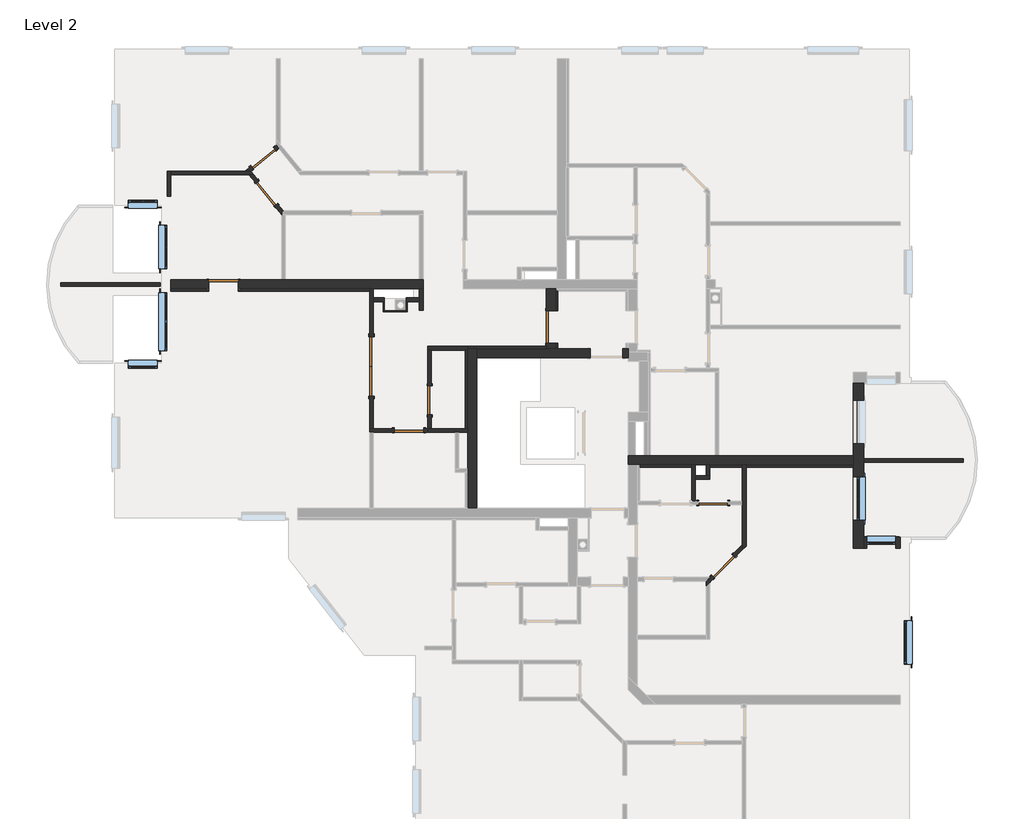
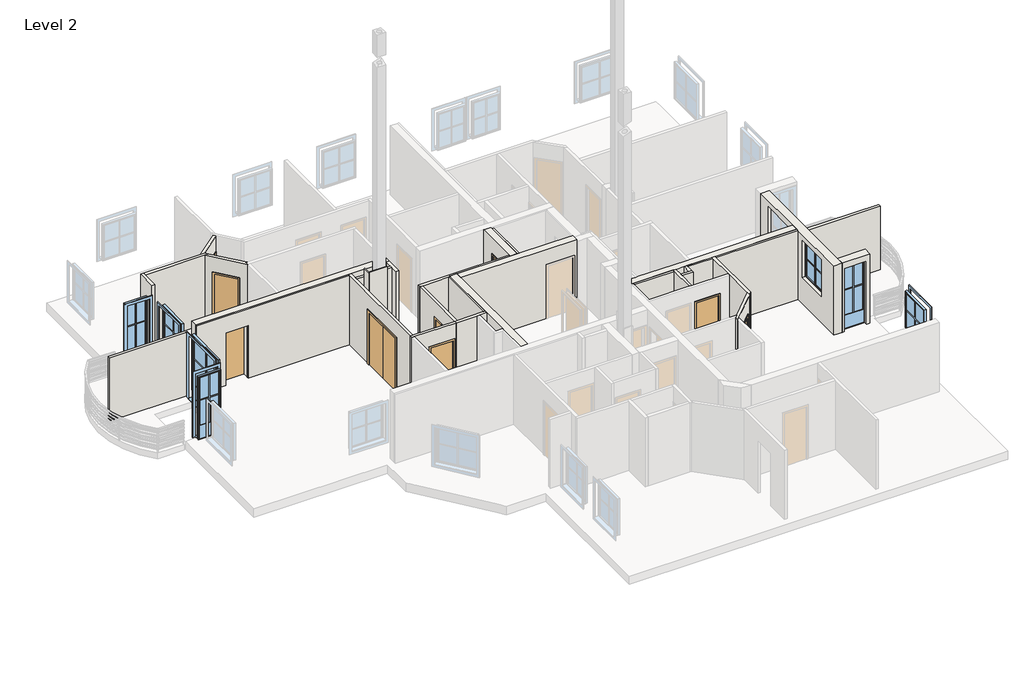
# One storey, part 2 of 4: 36 walls, 9 doors, 7 windows.
"""IFC4 building model written with IfcOpenShell, lengths in millimetres."""

from ifc_helpers import new_model, si_unit, frame, origin, place, context, project, spatial, polyline, outline, extrude, faceted_brep, transform, mapped, element, save
from components import m_double_flush_1640_x_2000mm_58610322, standard_door_sd_800x2000_6a16926d, standard_door_sd_800x2000_80f4ff25, standard_door_sd_800x2000_0203fe2f, standard_door_sd_900x2000_4224ae2a, standard_window_with_mullions_80486b60, window_1_87741a49, window_2_4fa60929, window_2_775565f5

model = new_model("IFC4")

# Units and contexts
model_context = context("Model", 3, world=origin())
ifc_project = project(units=[si_unit("LENGTHUNIT", "METRE", prefix="MILLI")], contexts=[model_context])

# Site, building, storey
site = spatial("IfcSite", under=ifc_project)
building = spatial("IfcBuilding", under=site)
storey = spatial("IfcBuildingStorey", under=building, Name="Level 2", Elevation=5900.0)

# Doors
placement = place(None, origin())
m_double_flush_1640_x_2000mm_shape = m_double_flush_1640_x_2000mm_58610322(model_context)
element("IfcDoor", 1, ObjectType="M_Double-Flush : 1640 x 2000mm", at=placement, inside=storey, context=model_context, shape_type="MappedRepresentation", body=[
    mapped(m_double_flush_1640_x_2000mm_shape, transform((-5507.1962165, 2081.2918521, 5900.0), x_axis=(0.0, 1.0, 0.0), y_axis=(-1.0, 0.0, 0.0), z_axis=(0.0, 0.0, 1.0))),
])
standard_door_sd_800x2000_shape = standard_door_sd_800x2000_6a16926d(model_context)
element("IfcDoor", 2, ObjectType="Standard Door : SD 800x2000", at=placement, inside=storey, context=model_context, shape_type="MappedRepresentation", body=[
    mapped(standard_door_sd_800x2000_shape, transform((4190.1336236, -3425.7517839, 5900.0), x_axis=(0.7071067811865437, 0.7071067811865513, 0.0), y_axis=(-0.7071067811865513, 0.7071067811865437, 0.0), z_axis=(0.0, 0.0, 1.0))),
])
element("IfcDoor", 3, ObjectType="Standard Door : SD 800x2000", at=placement, inside=storey, context=model_context, shape_type="MappedRepresentation", body=[
    mapped(standard_door_sd_800x2000_shape, transform((3909.4426418, -1682.3709459, 5900.0), x_axis=(1.0, 0.0, 0.0), y_axis=(0.0, 1.0, 0.0), z_axis=(0.0, 0.0, 1.0))),
])
element("IfcDoor", 4, ObjectType="Standard Door : SD 800x2000", at=placement, inside=storey, context=model_context, shape_type="MappedRepresentation", body=[
    mapped(standard_door_sd_800x2000_shape, transform((-8487.7895253, 7819.2928874, 5900.0), x_axis=(0.774832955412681, 0.6321660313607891, 0.0), y_axis=(-0.6321660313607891, 0.774832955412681, 0.0), z_axis=(0.0, 0.0, 1.0))),
])
element("IfcDoor", 5, ObjectType="Standard Door : SD 800x2000", at=placement, inside=storey, context=model_context, shape_type="MappedRepresentation", body=[
    mapped(standard_door_sd_800x2000_shape, transform((-8399.7238913, 6849.2373561, 5900.0), x_axis=(0.632166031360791, -0.7748329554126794, 0.0), y_axis=(0.7748329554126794, 0.632166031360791, 0.0), z_axis=(0.0, 0.0, 1.0))),
])
standard_door_sd_800x2000_2_shape = standard_door_sd_800x2000_80f4ff25(model_context)
element("IfcDoor", 6, ObjectType="Standard Door : SD 800x2000", at=placement, inside=storey, context=model_context, shape_type="MappedRepresentation", body=[
    mapped(standard_door_sd_800x2000_2_shape, transform((-3907.1962165, 1147.6290512, 5900.0), x_axis=(0.0, 0.9999999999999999, 0.0), y_axis=(-0.9999999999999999, 0.0, 0.0), z_axis=(0.0, 0.0, 1.0))),
])
element("IfcDoor", 7, ObjectType="Standard Door : SD 800x2000", at=placement, inside=storey, context=model_context, shape_type="MappedRepresentation", body=[
    mapped(standard_door_sd_800x2000_2_shape, transform((-4475.9642734, 317.6290541, 5900.0), x_axis=(-0.9999999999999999, 0.0, 0.0), y_axis=(0.0, -0.9999999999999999, 0.0), z_axis=(0.0, 0.0, 1.0))),
])
standard_door_sd_800x2000_3_shape = standard_door_sd_800x2000_0203fe2f(model_context)
element("IfcDoor", 8, ObjectType="Standard Door : SD 800x2000", at=placement, inside=storey, context=model_context, shape_type="MappedRepresentation", body=[
    mapped(standard_door_sd_800x2000_3_shape, transform((-9588.4360939, 4342.6290541, 5900.0), x_axis=(-1.0, 0.0, 0.0), y_axis=(0.0, -1.0, 0.0), z_axis=(0.0, 0.0, 1.0))),
])
standard_door_sd_900x2000_shape = standard_door_sd_900x2000_4224ae2a(model_context)
element("IfcDoor", 9, ObjectType="Standard Door : SD 900x2000", at=placement, inside=storey, context=model_context, shape_type="MappedRepresentation", body=[
    mapped(standard_door_sd_900x2000_shape, transform((-562.1962165, 3171.1987133, 5900.0), x_axis=(0.0, 1.0, 0.0), y_axis=(-1.0, 0.0, 0.0), z_axis=(0.0, 0.0, 1.0))),
])

# Walls
element("IfcWall", 10, ObjectType="Exterior - 100mm", at=placement, inside=storey, context=model_context, shape_type="SweptSolid", body=[
    extrude(outline(polyline([(-14076.3140436, 4392.6290541), (-11337.1962165, 4392.6290541), (-11337.1962165, 4292.6290541), (-14076.3140436, 4292.6290541), (-14076.3140436, 4392.6290541)])), frame((0.0, 0.0, 5900.0), z_axis=(0.0, 0.0, 1.0), x_axis=(1.0, 0.0, 0.0)), (0.0, 0.0, 1.0), 2400.0),
])
element("IfcWall", 11, ObjectType="Exterior - 100mm", at=placement, inside=storey, context=model_context, shape_type="SweptSolid", body=[
    extrude(outline(polyline([(10801.9216105, -557.3709459), (8062.8037835, -557.3709459), (8062.8037835, -457.3709459), (10801.9216105, -457.3709459), (10801.9216105, -557.3709459)])), frame((0.0, 0.0, 5900.0), z_axis=(0.0, 0.0, 1.0), x_axis=(1.0, 0.0, 0.0)), (0.0, 0.0, 1.0), 2400.0),
])
element("IfcWall", 12, ObjectType="Exterior - 250 + 50mm", at=placement, inside=storey, context=model_context, shape_type="Brep", body=[
    faceted_brep([(7762.8037835, -2932.3709459, 5900.0), (7762.8037835, -697.3709459, 5900.0), (7762.8037835, -632.3709459, 5900.0), (7762.8037835, -382.3709459, 5900.0), (7762.8037835, 1617.6290541, 5900.0), (8062.8037835, 1617.6290541, 5900.0), (8062.8037835, -457.3709459, 5900.0), (8062.8037835, -557.3709459, 5900.0), (8062.8037835, -2632.3709459, 5900.0), (8062.8037835, -2932.3709459, 5900.0), (7762.8037835, -2932.3709459, 8530.0), (7762.8037835, -697.3709459, 8530.0), (7762.8037835, -632.3709459, 8530.0), (7762.8037835, -382.3709459, 8530.0), (7762.8037835, 1617.6290541, 8530.0), (7762.8037835, -963.5367865, 6900.0), (7762.8037835, -963.5367865, 8300.0), (7762.8037835, -2163.5367865, 8300.0), (7762.8037835, -2163.5367865, 6900.0), (7762.8037835, 1155.9947187, 6900.0), (7762.8037835, 1155.9947187, 8300.0), (7762.8037835, -44.0052813, 8300.0), (7762.8037835, -44.0052813, 6900.0), (8062.8037835, 1617.6290541, 8530.0), (8062.8037835, -2632.3709459, 8530.0), (8062.8037835, -2932.3709459, 8530.0), (8062.8037835, -963.5367865, 6900.0), (8062.8037835, -2163.5367865, 6900.0), (8062.8037835, -2163.5367865, 8300.0), (8062.8037835, -963.5367865, 8300.0), (8062.8037835, 1155.9947187, 6900.0), (8062.8037835, -44.0052813, 6900.0), (8062.8037835, -44.0052813, 8300.0), (8062.8037835, 1155.9947187, 8300.0)], [[[0, 1, 2, 3, 4, 5, 6, 7, 8, 9]], [[4, 3, 2, 1, 0, 10, 11, 12, 13, 14], [15, 16, 17, 18], [19, 20, 21, 22]], [[5, 23, 24, 25, 9, 8, 7, 6], [26, 27, 28, 29], [30, 31, 32, 33]], [[4, 14, 23, 5]], [[10, 0, 9, 25]], [[14, 13, 12, 11, 10, 25, 24, 23]], [[16, 15, 26, 29]], [[17, 16, 29, 28]], [[18, 17, 28, 27]], [[15, 18, 27, 26]], [[20, 19, 30, 33]], [[21, 20, 33, 32]], [[22, 21, 32, 31]], [[19, 22, 31, 30]]]),
])
element("IfcWall", 13, ObjectType="Exterior - 250+50mm", at=placement, inside=storey, context=model_context, shape_type="SweptSolid", body=[
    extrude(outline(polyline([(8300.0, 8932.977935), (5900.0, 8932.977935), (5900.0, 9062.8037835), (8530.0, 9062.8037835), (8530.0, 8062.8037835), (5900.0, 8062.8037835), (5900.0, 8132.977935), (8300.0, 8132.977935), (8300.0, 8932.977935)])), frame((0.0, -2932.3709459, 0.0), z_axis=(0.0, 1.0, 0.0), x_axis=(0.0, 0.0, 1.0)), (0.0, 0.0, 1.0), 300.0),
])
element("IfcWall", 14, ObjectType="Interior - 100mm", at=placement, inside=storey, context=model_context, shape_type="Brep", body=[
    faceted_brep([(-4187.1962165, 3967.6290541, 5900.0), (-4557.1962165, 3967.6290541, 5900.0), (-4557.1962165, 3967.6290541, 8530.0), (-4357.1962165, 3967.6290541, 8530.0), (-4187.1962165, 3967.6290541, 8530.0), (-4187.1962165, 3867.6290541, 5900.0), (-4187.1962165, 3867.6290541, 8530.0), (-4557.1962165, 3867.6290541, 8530.0), (-4557.1962165, 3867.6290541, 5900.0), (-4527.1962165, 3867.6290541, 5900.0)], [[[0, 1, 2, 3, 4]], [[5, 6, 7, 8, 9]], [[1, 0, 5, 9, 8]], [[2, 1, 8, 7]], [[0, 4, 6, 5]], [[4, 3, 2, 7, 6]]]),
])
element("IfcWall", 15, ObjectType="Interior - 100mm", at=placement, inside=storey, context=model_context, shape_type="Brep", body=[
    faceted_brep([(-5157.1962165, 3967.6290541, 5900.0), (-5457.1962165, 3967.6290541, 5900.0), (-5457.1962165, 3967.6290541, 8530.0), (-5157.1962165, 3967.6290541, 8530.0), (-5157.1962165, 3867.6290541, 5900.0), (-5157.1962165, 3867.6290541, 8530.0), (-5457.1962165, 3867.6290541, 8530.0), (-5457.1962165, 3867.6290541, 5900.0), (-5187.1962165, 3867.6290541, 5900.0)], [[[0, 1, 2, 3]], [[4, 5, 6, 7, 8]], [[1, 0, 4, 8, 7]], [[0, 3, 5, 4]], [[2, 1, 7, 6]], [[3, 2, 6, 5]]]),
])
element("IfcWall", 16, ObjectType="Interior - 100mm", at=placement, inside=storey, context=model_context, shape_type="Brep", body=[
    faceted_brep([(-5457.1962165, 4217.6290541, 5900.0), (-5457.1962165, 3967.6290541, 5900.0), (-5457.1962165, 3867.6290541, 5900.0), (-5457.1962165, 2901.2918521, 5900.0), (-5557.1962165, 2901.2918521, 5900.0), (-5557.1962165, 4152.6290541, 5900.0), (-5557.1962165, 4217.6290541, 5900.0), (-5457.1962165, 1261.2918521, 5900.0), (-5457.1962165, 367.6290541, 5900.0), (-5557.1962165, 367.6290541, 5900.0), (-5557.1962165, 1261.2918521, 5900.0), (-5557.1962165, 2901.2918521, 7900.0), (-5557.1962165, 1261.2918521, 7900.0), (-5557.1962165, 367.6290541, 8530.0), (-5557.1962165, 4152.6290541, 8530.0), (-5557.1962165, 4217.6290541, 8530.0), (-5457.1962165, 2901.2918521, 7900.0), (-5457.1962165, 4217.6290541, 8530.0), (-5457.1962165, 3967.6290541, 8530.0), (-5457.1962165, 3867.6290541, 8530.0), (-5457.1962165, 367.6290541, 8530.0), (-5457.1962165, 1261.2918521, 7900.0)], [[[0, 1, 2, 3, 4, 5, 6]], [[7, 8, 9, 10]], [[6, 5, 4, 11, 12, 10, 9, 13, 14, 15]], [[16, 3, 2, 1, 0, 17, 18, 19, 20, 8, 7, 21]], [[6, 15, 17, 0]], [[13, 9, 8, 20]], [[15, 14, 13, 20, 19, 18, 17]], [[11, 4, 3, 16]], [[12, 11, 16, 21]], [[10, 12, 21, 7]]]),
])
element("IfcWall", 17, ObjectType="Interior - 100mm", at=placement, inside=storey, context=model_context, shape_type="Brep", body=[
    faceted_brep([(-3957.1962165, 267.6290541, 5900.0), (-3207.1962165, 267.6290541, 5900.0), (-3107.1962165, 267.6290541, 5900.0), (-2857.1962165, 267.6290541, 5900.0), (-2857.1962165, 267.6290541, 8530.0), (-3107.1962165, 267.6290541, 8530.0), (-3207.1962165, 267.6290541, 8530.0), (-3957.1962165, 267.6290541, 8530.0), (-3957.1962165, 367.6290541, 5900.0), (-3957.1962165, 367.6290541, 8530.0), (-3857.1962165, 367.6290541, 8530.0), (-2922.1962165, 367.6290541, 8530.0), (-2857.1962165, 367.6290541, 8530.0), (-2857.1962165, 367.6290541, 5900.0), (-2922.1962165, 367.6290541, 5900.0), (-3857.1962165, 367.6290541, 5900.0)], [[[0, 1, 2, 3, 4, 5, 6, 7]], [[8, 9, 10, 11, 12, 13, 14, 15]], [[3, 2, 1, 0, 8, 15, 14, 13]], [[0, 7, 9, 8]], [[4, 3, 13, 12]], [[7, 6, 5, 4, 12, 11, 10, 9]]]),
])
element("IfcWall", 18, ObjectType="Interior - 100mm", at=placement, inside=storey, context=model_context, shape_type="Brep", body=[
    faceted_brep([(-4187.1962165, 4217.6290541, 5900.0), (-4187.1962165, 3967.6290541, 5900.0), (-4187.1962165, 3867.6290541, 5900.0), (-4187.1962165, 3632.0533539, 5900.0), (-4187.1962165, 3632.0533539, 8530.0), (-4187.1962165, 3867.6290541, 8530.0), (-4187.1962165, 3967.6290541, 8530.0), (-4187.1962165, 4217.6290541, 8530.0), (-4087.1962165, 4217.6290541, 5900.0), (-4087.1962165, 4217.6290541, 8530.0), (-4087.1962165, 3632.0533539, 8530.0), (-4087.1962165, 3632.0533539, 5900.0)], [[[0, 1, 2, 3, 4, 5, 6, 7]], [[8, 9, 10, 11]], [[3, 2, 1, 0, 8, 11]], [[4, 3, 11, 10]], [[0, 7, 9, 8]], [[7, 6, 5, 4, 10, 9]]]),
])
element("IfcWall", 19, ObjectType="Interior - 100mm", at=placement, inside=storey, context=model_context, shape_type="Brep", body=[
    faceted_brep([(-2857.1962165, 2632.6290541, 5900.0), (-3957.1962165, 2632.6290541, 5900.0), (-3957.1962165, 2632.6290541, 8530.0), (-2857.1962165, 2632.6290541, 8530.0), (-2857.1962165, 2532.6290541, 5900.0), (-2857.1962165, 2532.6290541, 8530.0), (-2922.1962165, 2532.6290541, 8530.0), (-3857.1962165, 2532.6290541, 8530.0), (-3957.1962165, 2532.6290541, 8530.0), (-3957.1962165, 2532.6290541, 5900.0), (-3857.1962165, 2532.6290541, 5900.0), (-2922.1962165, 2532.6290541, 5900.0), (-2857.1962165, 2567.6290541, 5900.0), (-2857.1962165, 2567.6290541, 8530.0)], [[[0, 1, 2, 3]], [[4, 5, 6, 7, 8, 9, 10, 11]], [[1, 0, 12, 4, 11, 10, 9]], [[2, 1, 9, 8]], [[0, 3, 13, 5, 4, 12]], [[3, 2, 8, 7, 6, 5, 13]]]),
])
element("IfcWall", 20, ObjectType="Interior - 100mm", at=placement, inside=storey, context=model_context, shape_type="SweptSolid", body=[
    extrude(outline(polyline([(2532.6290541, 5900.0), (1547.6290512, 5900.0), (1547.6290512, 7900.0), (747.6290512, 7900.0), (747.6290512, 5900.0), (367.6290541, 5900.0), (367.6290541, 8530.0), (2532.6290541, 8530.0), (2532.6290541, 5900.0)])), frame((-3957.1962165, 0.0, 0.0), z_axis=(1.0, 0.0, 0.0), x_axis=(0.0, 1.0, 0.0)), (0.0, 0.0, 1.0), 100.0),
])
element("IfcWall", 21, ObjectType="Interior - 100mm", at=placement, inside=storey, context=model_context, shape_type="Brep", body=[
    faceted_brep([(4712.8037835, -632.3709459, 5900.0), (4712.8037835, -697.3709459, 5900.0), (4712.8037835, -1632.3709459, 5900.0), (4712.8037835, -1732.3709459, 5900.0), (4712.8037835, -2832.3709459, 5900.0), (4712.8037835, -2973.7923022, 5900.0), (4712.8037835, -2973.7923022, 8530.0), (4712.8037835, -2832.3709459, 8530.0), (4712.8037835, -1732.3709459, 8530.0), (4712.8037835, -1632.3709459, 8530.0), (4712.8037835, -697.3709459, 8530.0), (4712.8037835, -632.3709459, 8530.0), (4812.8037835, -632.3709459, 5900.0), (4812.8037835, -632.3709459, 8530.0), (4812.8037835, -697.3709459, 8530.0), (4812.8037835, -2873.7923022, 8530.0), (4812.8037835, -2873.7923022, 5900.0), (4812.8037835, -697.3709459, 5900.0)], [[[0, 1, 2, 3, 4, 5, 6, 7, 8, 9, 10, 11]], [[12, 13, 14, 15, 16, 17]], [[5, 4, 3, 2, 1, 0, 12, 17, 16]], [[6, 5, 16, 15]], [[0, 11, 13, 12]], [[11, 10, 9, 8, 7, 6, 15, 14, 13]]]),
])
element("IfcWall", 22, ObjectType="Interior - 100mm", at=placement, inside=storey, context=model_context, shape_type="Brep", body=[
    faceted_brep([(4712.8037835, -2973.7923022, 5900.0), (4508.3316751, -3178.2644105, 5900.0), (4437.620997, -3107.5537324, 5900.0), (4712.8037835, -2832.3709459, 5900.0), (3942.6462502, -3743.9498355, 5900.0), (3812.8037835, -3873.7923022, 5900.0), (3712.8037835, -3973.7923022, 5900.0), (3712.8037835, -3832.3709459, 5900.0), (3812.8037835, -3732.3709459, 5900.0), (3871.935572, -3673.2391573, 5900.0), (4437.620997, -3107.5537324, 7900.0), (3871.935572, -3673.2391573, 7900.0), (3712.8037835, -3832.3709459, 8530.0), (3812.8037835, -3732.3709459, 8530.0), (4712.8037835, -2832.3709459, 8530.0), (4508.3316751, -3178.2644105, 7900.0), (4712.8037835, -2973.7923022, 8530.0), (3812.8037835, -3873.7923022, 8530.0), (3712.8037835, -3973.7923022, 8530.0), (3942.6462502, -3743.9498355, 7900.0)], [[[0, 1, 2, 3]], [[4, 5, 6, 7, 8, 9]], [[3, 2, 10, 11, 9, 8, 7, 12, 13, 14]], [[15, 1, 0, 16, 17, 18, 6, 5, 4, 19]], [[3, 14, 16, 0]], [[12, 7, 6, 18]], [[14, 13, 12, 18, 17, 16]], [[10, 2, 1, 15]], [[11, 10, 15, 19]], [[9, 11, 19, 4]]]),
])
element("IfcWall", 23, ObjectType="Interior - 100mm", at=placement, inside=storey, context=model_context, shape_type="Brep", body=[
    faceted_brep([(3312.8037835, -632.3709459, 5900.0), (3312.8037835, -697.3709459, 5900.0), (3312.8037835, -1632.3709459, 5900.0), (3312.8037835, -1632.3709459, 8530.0), (3312.8037835, -697.3709459, 8530.0), (3312.8037835, -632.3709459, 8530.0), (3412.8037835, -632.3709459, 5900.0), (3412.8037835, -632.3709459, 8530.0), (3412.8037835, -932.3709459, 8530.0), (3412.8037835, -1032.3709459, 8530.0), (3412.8037835, -1632.3709459, 8530.0), (3412.8037835, -1632.3709459, 5900.0), (3412.8037835, -1032.3709459, 5900.0), (3412.8037835, -932.3709459, 5900.0)], [[[0, 1, 2, 3, 4, 5]], [[6, 7, 8, 9, 10, 11, 12, 13]], [[2, 1, 0, 6, 13, 12, 11]], [[0, 5, 7, 6]], [[3, 2, 11, 10]], [[5, 4, 3, 10, 9, 8, 7]]]),
])
element("IfcWall", 24, ObjectType="Interior - 100mm", at=placement, inside=storey, context=model_context, shape_type="Brep", body=[
    faceted_brep([(3412.8037835, -1032.3709459, 5900.0), (3812.8037835, -1032.3709459, 5900.0), (3812.8037835, -1032.3709459, 8530.0), (3412.8037835, -1032.3709459, 8530.0), (3412.8037835, -932.3709459, 5900.0), (3412.8037835, -932.3709459, 8530.0), (3712.8037835, -932.3709459, 8530.0), (3812.8037835, -932.3709459, 8530.0), (3812.8037835, -932.3709459, 5900.0), (3712.8037835, -932.3709459, 5900.0)], [[[0, 1, 2, 3]], [[4, 5, 6, 7, 8, 9]], [[1, 0, 4, 9, 8]], [[2, 1, 8, 7]], [[0, 3, 5, 4]], [[3, 2, 7, 6, 5]]]),
])
element("IfcWall", 25, ObjectType="Interior - 100mm", at=placement, inside=storey, context=model_context, shape_type="Brep", body=[
    faceted_brep([(3812.8037835, -932.3709459, 5900.0), (3812.8037835, -697.3709459, 5900.0), (3812.8037835, -632.3709459, 5900.0), (3812.8037835, -632.3709459, 8530.0), (3812.8037835, -697.3709459, 8530.0), (3812.8037835, -932.3709459, 8530.0), (3712.8037835, -932.3709459, 5900.0), (3712.8037835, -932.3709459, 8530.0), (3712.8037835, -632.3709459, 8530.0), (3712.8037835, -632.3709459, 5900.0)], [[[0, 1, 2, 3, 4, 5]], [[6, 7, 8, 9]], [[2, 1, 0, 6, 9]], [[0, 5, 7, 6]], [[3, 2, 9, 8]], [[5, 4, 3, 8, 7]]]),
])
element("IfcWall", 26, ObjectType="Interior - 100mm", at=placement, inside=storey, context=model_context, shape_type="Brep", body=[
    faceted_brep([(-5557.1962165, 367.6290541, 5900.0), (-5457.1962165, 367.6290541, 5900.0), (-4875.9642734, 367.6290541, 5900.0), (-4875.9642734, 267.6290541, 5900.0), (-5457.1962165, 267.6290541, 5900.0), (-5557.1962165, 267.6290541, 5900.0), (-4075.9642734, 367.6290541, 5900.0), (-3957.1962165, 367.6290541, 5900.0), (-3957.1962165, 267.6290541, 5900.0), (-4075.9642734, 267.6290541, 5900.0), (-4875.9642734, 267.6290541, 7900.0), (-4075.9642734, 267.6290541, 7900.0), (-3957.1962165, 267.6290541, 8530.0), (-5457.1962165, 267.6290541, 8530.0), (-5557.1962165, 267.6290541, 8530.0), (-4875.9642734, 367.6290541, 7900.0), (-5557.1962165, 367.6290541, 8530.0), (-5457.1962165, 367.6290541, 8530.0), (-3957.1962165, 367.6290541, 8530.0), (-4075.9642734, 367.6290541, 7900.0)], [[[0, 1, 2, 3, 4, 5]], [[6, 7, 8, 9]], [[5, 4, 3, 10, 11, 9, 8, 12, 13, 14]], [[15, 2, 1, 0, 16, 17, 18, 7, 6, 19]], [[5, 14, 16, 0]], [[12, 8, 7, 18]], [[14, 13, 12, 18, 17, 16]], [[10, 3, 2, 15]], [[11, 10, 15, 19]], [[9, 11, 19, 6]]]),
])
element("IfcWall", 27, ObjectType="Interior - 100mm", at=placement, inside=storey, context=model_context, shape_type="Brep", body=[
    faceted_brep([(-11037.1962165, 6767.6290541, 5900.0), (-11037.1962165, 7367.6290541, 5900.0), (-11037.1962165, 7467.6290541, 5900.0), (-11037.1962165, 7467.6290541, 8530.0), (-11037.1962165, 7367.6290541, 8530.0), (-11037.1962165, 6767.6290541, 8530.0), (-11137.1962165, 6767.6290541, 5900.0), (-11137.1962165, 6767.6290541, 8530.0), (-11137.1962165, 7467.6290541, 8530.0), (-11137.1962165, 7467.6290541, 5900.0)], [[[0, 1, 2, 3, 4, 5]], [[6, 7, 8, 9]], [[2, 1, 0, 6, 9]], [[3, 2, 9, 8]], [[0, 5, 7, 6]], [[5, 4, 3, 8, 7]]]),
])
element("IfcWall", 28, ObjectType="Interior - 100mm", at=placement, inside=storey, context=model_context, shape_type="Brep", body=[
    faceted_brep([(-11037.1962165, 7367.6290541, 5900.0), (-8887.1962165, 7367.6290541, 5900.0), (-8758.1361407, 7367.6290541, 5900.0), (-8758.1361407, 7367.6290541, 8530.0), (-8887.1962165, 7367.6290541, 8530.0), (-11037.1962165, 7367.6290541, 8530.0), (-11037.1962165, 7467.6290541, 5900.0), (-11037.1962165, 7467.6290541, 8530.0), (-8997.909828, 7467.6290541, 8530.0), (-8839.7235366, 7467.6290541, 8530.0), (-8839.7235366, 7467.6290541, 5900.0), (-8997.909828, 7467.6290541, 5900.0)], [[[0, 1, 2, 3, 4, 5]], [[6, 7, 8, 9, 10, 11]], [[2, 1, 0, 6, 11, 10]], [[3, 2, 10, 9]], [[0, 5, 7, 6]], [[5, 4, 3, 9, 8, 7]]]),
])
element("IfcWall", 29, ObjectType="Interior - 100mm", at=placement, inside=storey, context=model_context, shape_type="Brep", body=[
    faceted_brep([(-7989.734861, 6267.6290541, 5900.0), (-8185.5991266, 6507.6958724, 5900.0), (-8108.115831, 6570.9124755, 5900.0), (-7942.2621811, 6367.6290541, 5900.0), (-7989.734861, 6367.6290541, 5900.0), (-8691.3319517, 7127.5622367, 5900.0), (-8887.1962165, 7367.6290541, 5900.0), (-8758.1361407, 7367.6290541, 5900.0), (-8613.8486561, 7190.7788398, 5900.0), (-8185.5991266, 6507.6958724, 7900.0), (-7989.734861, 6267.6290541, 8530.0), (-8887.1962165, 7367.6290541, 8530.0), (-8691.3319517, 7127.5622367, 7900.0), (-8108.115831, 6570.9124755, 7900.0), (-8613.8486561, 7190.7788398, 7900.0), (-8758.1361407, 7367.6290541, 8530.0), (-7942.2621811, 6367.6290541, 8530.0), (-7989.734861, 6367.6290541, 8530.0)], [[[0, 1, 2, 3, 4]], [[5, 6, 7, 8]], [[9, 1, 0, 10, 11, 6, 5, 12]], [[3, 2, 13, 14, 8, 7, 15, 16]], [[6, 11, 15, 7]], [[10, 0, 4, 17]], [[4, 3, 16, 17]], [[11, 10, 17, 16, 15]], [[13, 2, 1, 9]], [[14, 13, 9, 12]], [[8, 14, 12, 5]]]),
])
element("IfcWall", 30, ObjectType="Interior - 100mm", at=placement, inside=storey, context=model_context, shape_type="Brep", body=[
    faceted_brep([(-8064.8905812, 8099.7950854, 5900.0), (-8146.2480415, 8033.4176522, 5900.0), (-8209.4646447, 8110.9009477, 5900.0), (-8128.1071844, 8177.278381, 5900.0), (-8766.1144059, 7527.6848271, 5900.0), (-8839.7235366, 7467.6290541, 5900.0), (-8997.909828, 7467.6290541, 5900.0), (-8829.331009, 7605.1681226, 5900.0), (-8146.2480415, 8033.4176522, 7900.0), (-8064.8905812, 8099.7950854, 8530.0), (-8839.7235366, 7467.6290541, 8530.0), (-8766.1144059, 7527.6848271, 7900.0), (-8209.4646447, 8110.9009477, 7900.0), (-8829.331009, 7605.1681226, 7900.0), (-8997.909828, 7467.6290541, 8530.0), (-8128.1071844, 8177.278381, 8530.0)], [[[0, 1, 2, 3]], [[4, 5, 6, 7]], [[8, 1, 0, 9, 10, 5, 4, 11]], [[3, 2, 12, 13, 7, 6, 14, 15]], [[9, 0, 3, 15]], [[5, 10, 14, 6]], [[10, 9, 15, 14]], [[12, 2, 1, 8]], [[13, 12, 8, 11]], [[7, 13, 11, 4]]]),
])
element("IfcWall", 31, ObjectType="Interior - 250mm", at=placement, inside=storey, context=model_context, shape_type="Brep", body=[
    faceted_brep([(-4087.1962165, 4217.6290541, 8530.0), (-4087.1962165, 4217.6290541, 5900.0), (-4087.1962165, 4467.6290541, 5900.0), (-4087.1962165, 4467.6290541, 8530.0), (-11037.1962165, 4467.6290541, 5900.0), (-9988.4360939, 4467.6290541, 5900.0), (-9988.4360939, 4217.6290541, 5900.0), (-11037.1962165, 4217.6290541, 5900.0), (-9188.4360939, 4467.6290541, 5900.0), (-7989.734861, 4467.6290541, 5900.0), (-7889.734861, 4467.6290541, 5900.0), (-4187.1962165, 4467.6290541, 5900.0), (-4187.1962165, 4217.6290541, 5900.0), (-5457.1962165, 4217.6290541, 5900.0), (-5557.1962165, 4217.6290541, 5900.0), (-9188.4360939, 4217.6290541, 5900.0), (-9988.4360939, 4217.6290541, 7900.0), (-9188.4360939, 4217.6290541, 7900.0), (-4187.1962165, 4217.6290541, 8530.0), (-4357.1962165, 4217.6290541, 8530.0), (-5457.1962165, 4217.6290541, 8530.0), (-5557.1962165, 4217.6290541, 8530.0), (-11037.1962165, 4217.6290541, 8530.0), (-9988.4360939, 4467.6290541, 7900.0), (-11037.1962165, 4467.6290541, 8530.0), (-7989.734861, 4467.6290541, 8530.0), (-7889.734861, 4467.6290541, 8530.0), (-4187.1962165, 4467.6290541, 8530.0), (-9188.4360939, 4467.6290541, 7900.0)], [[[0, 1, 2, 3]], [[4, 5, 6, 7]], [[8, 9, 10, 11, 2, 1, 12, 13, 14, 15]], [[7, 6, 16, 17, 15, 14, 13, 12, 1, 0, 18, 19, 20, 21, 22]], [[23, 5, 4, 24, 25, 26, 27, 3, 2, 11, 10, 9, 8, 28]], [[7, 22, 24, 4]], [[22, 21, 20, 19, 18, 0, 3, 27, 26, 25, 24]], [[16, 6, 5, 23]], [[17, 16, 23, 28]], [[15, 17, 28, 8]]]),
])
element("IfcWall", 32, ObjectType="Interior - 250mm", at=placement, inside=storey, context=model_context, shape_type="Brep", body=[
    faceted_brep([(7762.8037835, -382.3709459, 5900.0), (4062.8037835, -382.3709459, 5900.0), (3962.8037835, -382.3709459, 5900.0), (2177.8037835, -382.3709459, 5900.0), (2112.8037835, -382.3709459, 5900.0), (2012.8037835, -382.3709459, 5900.0), (1762.8087381, -382.3709459, 5900.0), (1562.8087381, -382.3709459, 5900.0), (1562.8087381, -382.3709459, 8530.0), (1762.8087381, -382.3709459, 8530.0), (2012.8037835, -382.3709459, 8530.0), (2112.8037835, -382.3709459, 8530.0), (2177.8037835, -382.3709459, 8530.0), (3962.8037835, -382.3709459, 8530.0), (4062.8037835, -382.3709459, 8530.0), (7762.8037835, -382.3709459, 8530.0), (7762.8037835, -632.3709459, 5900.0), (7762.8037835, -632.3709459, 8530.0), (4812.8037835, -632.3709459, 8530.0), (4712.8037835, -632.3709459, 8530.0), (3812.8037835, -632.3709459, 8530.0), (3712.8037835, -632.3709459, 8530.0), (3412.8037835, -632.3709459, 8530.0), (3312.8037835, -632.3709459, 8530.0), (1812.8087381, -632.3709459, 8530.0), (1562.8087381, -632.3709459, 8530.0), (1562.8087381, -632.3709459, 5900.0), (1812.8087381, -632.3709459, 5900.0), (3312.8037835, -632.3709459, 5900.0), (3412.8037835, -632.3709459, 5900.0), (3712.8037835, -632.3709459, 5900.0), (3812.8037835, -632.3709459, 5900.0), (4712.8037835, -632.3709459, 5900.0), (4812.8037835, -632.3709459, 5900.0)], [[[0, 1, 2, 3, 4, 5, 6, 7, 8, 9, 10, 11, 12, 13, 14, 15]], [[16, 17, 18, 19, 20, 21, 22, 23, 24, 25, 26, 27, 28, 29, 30, 31, 32, 33]], [[7, 6, 5, 4, 3, 2, 1, 0, 16, 33, 32, 31, 30, 29, 28, 27, 26]], [[8, 7, 26, 25]], [[0, 15, 17, 16]], [[15, 14, 13, 12, 11, 10, 9, 8, 25, 24, 23, 22, 21, 20, 19, 18, 17]]]),
])
element("IfcWall", 33, ObjectType="Interior - 250mm", at=placement, inside=storey, context=model_context, shape_type="Brep", body=[
    faceted_brep([(-2607.1962165, 2567.6290541, 5900.0), (-687.1962165, 2567.6290541, 5900.0), (-437.1962165, 2567.6290541, 5900.0), (-372.1962165, 2567.6290541, 5900.0), (517.0786115, 2567.6290541, 5900.0), (517.0786115, 2317.6290541, 5900.0), (-2607.1962165, 2317.6290541, 5900.0), (1417.0786115, 2567.6290541, 5900.0), (1497.8037835, 2567.6290541, 5900.0), (1562.8037835, 2567.6290541, 5900.0), (1562.8037835, 2467.6290541, 5900.0), (1562.8037835, 2317.6290541, 5900.0), (1417.0786115, 2317.6290541, 5900.0), (517.0786115, 2567.6290541, 7900.0), (-2607.1962165, 2567.6290541, 8530.0), (-687.1962165, 2567.6290541, 8530.0), (-437.1962165, 2567.6290541, 8530.0), (-372.1962165, 2567.6290541, 8530.0), (1497.8037835, 2567.6290541, 8530.0), (1562.8037835, 2567.6290541, 8530.0), (1417.0786115, 2567.6290541, 7900.0), (517.0786115, 2317.6290541, 7900.0), (1417.0786115, 2317.6290541, 7900.0), (1562.8037835, 2317.6290541, 8530.0), (-857.1962165, 2317.6290541, 8530.0), (-2607.1962165, 2317.6290541, 8530.0), (1562.8037835, 2467.6290541, 8530.0)], [[[0, 1, 2, 3, 4, 5, 6]], [[7, 8, 9, 10, 11, 12]], [[13, 4, 3, 2, 1, 0, 14, 15, 16, 17, 18, 19, 9, 8, 7, 20]], [[6, 5, 21, 22, 12, 11, 23, 24, 25]], [[9, 19, 26, 23, 11, 10]], [[14, 0, 6, 25]], [[19, 18, 17, 16, 15, 14, 25, 24, 23, 26]], [[21, 5, 4, 13]], [[22, 21, 13, 20]], [[12, 22, 20, 7]]]),
])
element("IfcWall", 34, ObjectType="Interior - 250mm", at=placement, inside=storey, context=model_context, shape_type="Brep", body=[
    faceted_brep([(-2857.1962165, 2567.6290541, 5900.0), (-2857.1962165, 2532.6290541, 5900.0), (-2857.1962165, 367.6290541, 5900.0), (-2857.1962165, 267.6290541, 5900.0), (-2857.1962165, -732.3709459, 5900.0), (-2857.1962165, -832.3709459, 5900.0), (-2857.1962165, -1832.3709459, 5900.0), (-2857.1962165, -1832.3709459, 8530.0), (-2857.1962165, -832.3709459, 8530.0), (-2857.1962165, -732.3709459, 8530.0), (-2857.1962165, 267.6290541, 8530.0), (-2857.1962165, 367.6290541, 8530.0), (-2857.1962165, 2532.6290541, 8530.0), (-2857.1962165, 2567.6290541, 8530.0), (-2607.1962165, 2567.6290541, 5900.0), (-2607.1962165, 2567.6290541, 8530.0), (-2607.1962165, 2317.6290541, 8530.0), (-2607.1962165, -1832.3709459, 8530.0), (-2607.1962165, -1832.3709459, 5900.0), (-2607.1962165, 2317.6290541, 5900.0)], [[[0, 1, 2, 3, 4, 5, 6, 7, 8, 9, 10, 11, 12, 13]], [[14, 15, 16, 17, 18, 19]], [[6, 5, 4, 3, 2, 1, 0, 14, 19, 18]], [[0, 13, 15, 14]], [[7, 6, 18, 17]], [[13, 12, 11, 10, 9, 8, 7, 17, 16, 15]]]),
])
element("IfcWall", 35, ObjectType="Interior - 250mm", at=placement, inside=storey, context=model_context, shape_type="Brep", body=[
    faceted_brep([(-437.1962165, 4217.6290541, 5900.0), (-437.1962165, 4152.6290541, 5900.0), (-437.1962165, 3621.1987133, 5900.0), (-687.1962165, 3621.1987133, 5900.0), (-687.1962165, 4217.6290541, 5900.0), (-437.1962165, 2721.1987133, 5900.0), (-437.1962165, 2567.6290541, 5900.0), (-687.1962165, 2567.6290541, 5900.0), (-687.1962165, 2632.6290541, 5900.0), (-687.1962165, 2721.1987133, 5900.0), (-687.1962165, 3621.1987133, 7900.0), (-687.1962165, 2721.1987133, 7900.0), (-687.1962165, 2567.6290541, 8530.0), (-687.1962165, 2632.6290541, 8530.0), (-687.1962165, 4217.6290541, 8530.0), (-437.1962165, 3621.1987133, 7900.0), (-437.1962165, 4217.6290541, 8530.0), (-437.1962165, 4152.6290541, 8530.0), (-437.1962165, 2567.6290541, 8530.0), (-437.1962165, 2721.1987133, 7900.0)], [[[0, 1, 2, 3, 4]], [[5, 6, 7, 8, 9]], [[4, 3, 10, 11, 9, 8, 7, 12, 13, 14]], [[15, 2, 1, 0, 16, 17, 18, 6, 5, 19]], [[4, 14, 16, 0]], [[12, 7, 6, 18]], [[14, 13, 12, 18, 17, 16]], [[10, 3, 2, 15]], [[11, 10, 15, 19]], [[9, 11, 19, 5]]]),
])
element("IfcWall", 36, ObjectType="Interior - 300mm", at=placement, inside=storey, context=model_context, shape_type="Brep", body=[
    faceted_brep([(-5187.1962165, 3867.6290541, 5900.0), (-5187.1962165, 3587.6290541, 5900.0), (-5187.1962165, 3587.6290541, 8850.0), (-5187.1962165, 3867.6290541, 8850.0), (-5157.1962165, 3867.6290541, 5900.0), (-5157.1962165, 3867.6290541, 8530.0), (-5157.1962165, 3867.6290541, 8850.0), (-5157.1962165, 3617.6290541, 8850.0), (-5157.1962165, 3587.6290541, 8850.0), (-5157.1962165, 3587.6290541, 5900.0), (-5157.1962165, 3617.6290541, 5900.0)], [[[0, 1, 2, 3]], [[4, 5, 6, 7, 8, 9, 10]], [[1, 0, 4, 10, 9]], [[3, 2, 8, 7, 6]], [[2, 1, 9, 8]], [[0, 3, 6, 5, 4]]]),
])
element("IfcWall", 37, ObjectType="Interior - 300mm", at=placement, inside=storey, context=model_context, shape_type="Brep", body=[
    faceted_brep([(-5157.1962165, 3587.6290541, 5900.0), (-4527.1962165, 3587.6290541, 5900.0), (-4527.1962165, 3587.6290541, 8850.0), (-5157.1962165, 3587.6290541, 8850.0), (-5157.1962165, 3617.6290541, 5900.0), (-5157.1962165, 3617.6290541, 8850.0), (-4557.1962165, 3617.6290541, 8850.0), (-4527.1962165, 3617.6290541, 8850.0), (-4527.1962165, 3617.6290541, 5900.0), (-4557.1962165, 3617.6290541, 5900.0)], [[[0, 1, 2, 3]], [[4, 5, 6, 7, 8, 9]], [[1, 0, 4, 9, 8]], [[3, 2, 7, 6, 5]], [[2, 1, 8, 7]], [[0, 3, 5, 4]]]),
])
element("IfcWall", 38, ObjectType="Interior - 300mm", at=placement, inside=storey, context=model_context, shape_type="Brep", body=[
    faceted_brep([(-4527.1962165, 3617.6290541, 5900.0), (-4527.1962165, 3867.6290541, 5900.0), (-4527.1962165, 3867.6290541, 8850.0), (-4527.1962165, 3617.6290541, 8850.0), (-4557.1962165, 3617.6290541, 5900.0), (-4557.1962165, 3617.6290541, 8850.0), (-4557.1962165, 3867.6290541, 8850.0), (-4557.1962165, 3867.6290541, 8530.0), (-4557.1962165, 3867.6290541, 5900.0)], [[[0, 1, 2, 3]], [[4, 5, 6, 7, 8]], [[1, 0, 4, 8]], [[3, 2, 6, 5]], [[0, 3, 5, 4]], [[2, 1, 8, 7, 6]]]),
])
element("IfcWall", 39, ObjectType="Interior - 65mm", at=placement, inside=storey, context=model_context, shape_type="SweptSolid", body=[
    extrude(outline(polyline([(-2922.1962165, 367.6290541), (-2922.1962165, 2532.6290541), (-2857.1962165, 2532.6290541), (-2857.1962165, 367.6290541), (-2922.1962165, 367.6290541)])), frame((0.0, 0.0, 5900.0), z_axis=(0.0, 0.0, 1.0), x_axis=(1.0, 0.0, 0.0)), (0.0, 0.0, 1.0), 2630.0),
])
element("IfcWall", 40, ObjectType="Interior - 65mm", at=placement, inside=storey, context=model_context, shape_type="SweptSolid", body=[
    extrude(outline(polyline([(3312.8037835, -697.3709459), (1877.8037835, -697.3709459), (1877.8037835, -632.3709459), (3312.8037835, -632.3709459), (3312.8037835, -697.3709459)])), frame((0.0, 0.0, 5900.0), z_axis=(0.0, 0.0, 1.0), x_axis=(1.0, 0.0, 0.0)), (0.0, 0.0, 1.0), 2630.0),
])
element("IfcWall", 41, ObjectType="Interior - 65mm", at=placement, inside=storey, context=model_context, shape_type="SweptSolid", body=[
    extrude(outline(polyline([(4712.8037835, -697.3709459), (3812.8037835, -697.3709459), (3812.8037835, -632.3709459), (4712.8037835, -632.3709459), (4712.8037835, -697.3709459)])), frame((0.0, 0.0, 5900.0), z_axis=(0.0, 0.0, 1.0), x_axis=(1.0, 0.0, 0.0)), (0.0, 0.0, 1.0), 2630.0),
])
element("IfcWall", 42, ObjectType="Interior - 65mm", at=placement, inside=storey, context=model_context, shape_type="SweptSolid", body=[
    extrude(outline(polyline([(7762.8037835, -697.3709459), (4812.8037835, -697.3709459), (4812.8037835, -632.3709459), (7762.8037835, -632.3709459), (7762.8037835, -697.3709459)])), frame((0.0, 0.0, 5900.0), z_axis=(0.0, 0.0, 1.0), x_axis=(1.0, 0.0, 0.0)), (0.0, 0.0, 1.0), 2630.0),
])
element("IfcWall", 43, ObjectType="Interior - 65mm", at=placement, inside=storey, context=model_context, shape_type="SweptSolid", body=[
    extrude(outline(polyline([(5900.0, -11037.1962165), (5900.0, -9988.4360939), (7900.0, -9988.4360939), (7900.0, -9188.4360939), (5900.0, -9188.4360939), (5900.0, -5557.1962165), (8530.0, -5557.1962165), (8530.0, -11037.1962165), (5900.0, -11037.1962165)])), frame((0.0, 4152.6290541, 0.0), z_axis=(0.0, 1.0, 0.0), x_axis=(0.0, 0.0, 1.0)), (0.0, 0.0, 1.0), 65.0),
])
element("IfcWall", 44, ObjectType="Interior - 65mm", at=placement, inside=storey, context=model_context, shape_type="SweptSolid", body=[
    extrude(outline(polyline([(-687.1962165, 2567.6290541), (-2857.1962165, 2567.6290541), (-2857.1962165, 2632.6290541), (-687.1962165, 2632.6290541), (-687.1962165, 2567.6290541)])), frame((0.0, 0.0, 5900.0), z_axis=(0.0, 0.0, 1.0), x_axis=(1.0, 0.0, 0.0)), (0.0, 0.0, 1.0), 2630.0),
])
element("IfcWall", 45, ObjectType="Interior - 65mm", at=placement, inside=storey, context=model_context, shape_type="SweptSolid", body=[
    extrude(outline(polyline([(4152.6290541, 5900.0), (3621.1987133, 5900.0), (3621.1987133, 7900.0), (2721.1987133, 7900.0), (2721.1987133, 5900.0), (2567.6290541, 5900.0), (2567.6290541, 8530.0), (4152.6290541, 8530.0), (4152.6290541, 5900.0)])), frame((-437.1962165, 0.0, 0.0), z_axis=(1.0, 0.0, 0.0), x_axis=(0.0, 1.0, 0.0)), (0.0, 0.0, 1.0), 65.0),
])

# Windows
standard_window_with_mullions_shape = standard_window_with_mullions_80486b60(model_context)
element("IfcWindow", 46, ObjectType="Standard Window with mullions : 1200/1400", at=placement, inside=storey, context=model_context, shape_type="MappedRepresentation", body=[
    mapped(standard_window_with_mullions_shape, transform((-11187.1962165, 5367.6290548, 5900.0), x_axis=(0.0, 1.0, 0.0), y_axis=(-1.0, 0.0, 0.0), z_axis=(0.0, 0.0, 1.0))),
])
element("IfcWindow", 47, ObjectType="Standard Window with mullions : 1200/1400", at=placement, inside=storey, context=model_context, shape_type="MappedRepresentation", body=[
    mapped(standard_window_with_mullions_shape, transform((7912.8037835, -1563.5367865, 5900.0), x_axis=(0.0, -1.0, 0.0), y_axis=(1.0, 0.0, 0.0), z_axis=(0.0, 0.0, 1.0))),
])
element("IfcWindow", 48, ObjectType="Standard Window with mullions : 1200/1400", at=placement, inside=storey, context=model_context, shape_type="MappedRepresentation", body=[
    mapped(standard_window_with_mullions_shape, transform((9212.8037835, -5524.0530367, 5900.0), x_axis=(0.0, -1.0, 0.0), y_axis=(1.0, 0.0, 0.0), z_axis=(0.0, 0.0, 1.0))),
])
window_1_shape = window_1_87741a49(model_context)
element("IfcWindow", 49, ObjectType="Window 1 : 1600/2400", at=placement, inside=storey, context=model_context, shape_type="MappedRepresentation", body=[
    mapped(window_1_shape, transform((-11187.1962165, 3317.6290559, 5900.0), x_axis=(0.0, 1.0, 0.0), y_axis=(-1.0, 0.0, 0.0), z_axis=(0.0, 0.0, 1.0))),
])
window_2_shape = window_2_4fa60929(model_context)
element("IfcWindow", 50, ObjectType="Window 2 : 800/2400", at=placement, inside=storey, context=model_context, shape_type="MappedRepresentation", body=[
    mapped(window_2_shape, transform((-11807.3703663, 2067.6290541, 5900.0), x_axis=(1.0, 0.0, 0.0), y_axis=(0.0, 1.0, 0.0), z_axis=(0.0, 0.0, 1.0))),
])
window_2_2_shape = window_2_775565f5(model_context)
element("IfcWindow", 51, ObjectType="Window 2 : 800/2400", at=placement, inside=storey, context=model_context, shape_type="MappedRepresentation", body=[
    mapped(window_2_2_shape, transform((-11807.370388, 6617.6290541, 5900.0), x_axis=(1.0, 0.0, 0.0), y_axis=(0.0, 1.0, 0.0), z_axis=(0.0, 0.0, 1.0))),
])
element("IfcWindow", 52, ObjectType="Window 2 : 800/2400", at=placement, inside=storey, context=model_context, shape_type="MappedRepresentation", body=[
    mapped(window_2_2_shape, transform((8532.977935, -2782.3709459, 5900.0), x_axis=(-1.0, 0.0, 0.0), y_axis=(0.0, -1.0, 0.0), z_axis=(0.0, 0.0, 1.0))),
])

save(model, "model.ifc")
